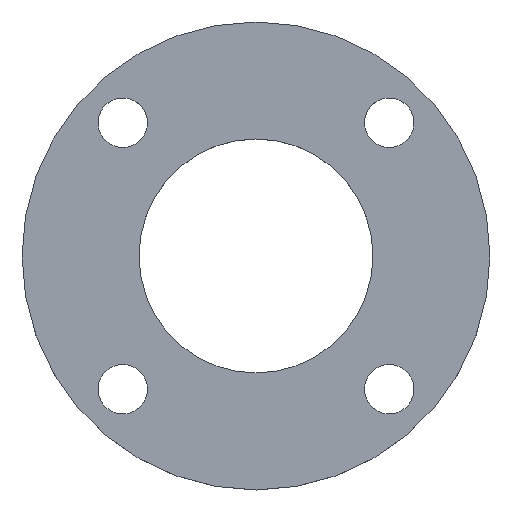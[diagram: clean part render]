
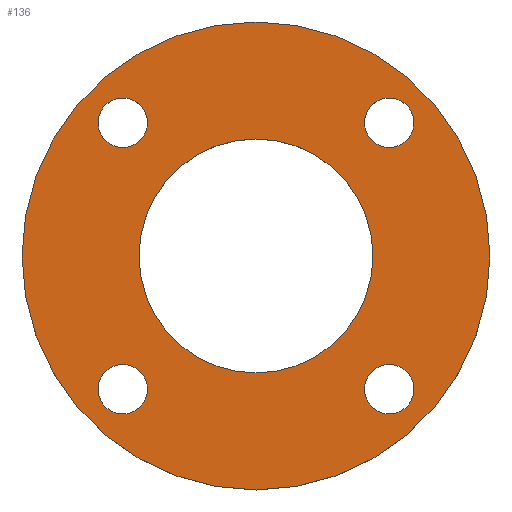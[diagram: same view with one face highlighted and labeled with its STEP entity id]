
A CAD part, top view. The second image highlights one B-rep face of the part: STEP entity #136.
In plain terms, the highlighted planar face has unit normal (0, 0, 1).
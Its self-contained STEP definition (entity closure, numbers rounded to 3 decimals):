
#14=PLANE($,#159);
#27=FACE_BOUND($,#57,.T.);
#28=FACE_BOUND($,#58,.T.);
#29=FACE_BOUND($,#59,.T.);
#30=FACE_BOUND($,#60,.T.);
#31=FACE_BOUND($,#61,.T.);
#32=FACE_BOUND($,#62,.T.);
#57=EDGE_LOOP($,(#117));
#58=EDGE_LOOP($,(#118));
#59=EDGE_LOOP($,(#119));
#60=EDGE_LOOP($,(#120));
#61=EDGE_LOOP($,(#121));
#62=EDGE_LOOP($,(#122));
#64=CIRCLE($,#142,9.5);
#66=CIRCLE($,#145,9.5);
#68=CIRCLE($,#148,9.5);
#70=CIRCLE($,#151,9.5);
#71=CIRCLE($,#153,45.);
#73=CIRCLE($,#156,90.);
#76=VERTEX_POINT($,#206);
#78=VERTEX_POINT($,#211);
#80=VERTEX_POINT($,#216);
#82=VERTEX_POINT($,#221);
#83=VERTEX_POINT($,#224);
#85=VERTEX_POINT($,#229);
#88=EDGE_CURVE($,#76,#76,#64,.T.);
#90=EDGE_CURVE($,#78,#78,#66,.T.);
#92=EDGE_CURVE($,#80,#80,#68,.T.);
#94=EDGE_CURVE($,#82,#82,#70,.T.);
#95=EDGE_CURVE($,#83,#83,#71,.T.);
#97=EDGE_CURVE($,#85,#85,#73,.T.);
#117=ORIENTED_EDGE($,*,*,#88,.T.);
#118=ORIENTED_EDGE($,*,*,#90,.T.);
#119=ORIENTED_EDGE($,*,*,#92,.T.);
#120=ORIENTED_EDGE($,*,*,#94,.T.);
#121=ORIENTED_EDGE($,*,*,#95,.T.);
#122=ORIENTED_EDGE($,*,*,#97,.T.);
#136=ADVANCED_FACE($,(#27,#28,#29,#30,#31,#32),#14,.T.);
#142=AXIS2_PLACEMENT_3D($,#207,#166,#167);
#145=AXIS2_PLACEMENT_3D($,#212,#172,#173);
#148=AXIS2_PLACEMENT_3D($,#217,#178,#179);
#151=AXIS2_PLACEMENT_3D($,#222,#184,#185);
#153=AXIS2_PLACEMENT_3D($,#225,#188,#189);
#156=AXIS2_PLACEMENT_3D($,#230,#194,#195);
#159=AXIS2_PLACEMENT_3D($,#234,#200,#201);
#166=DIRECTION('center_axis',(0.,0.,-1.));
#167=DIRECTION('ref_axis',(0.,1.,0.));
#172=DIRECTION('center_axis',(0.,0.,-1.));
#173=DIRECTION('ref_axis',(1.,0.,0.));
#178=DIRECTION('center_axis',(0.,0.,-1.));
#179=DIRECTION('ref_axis',(0.,-1.,0.));
#184=DIRECTION('center_axis',(0.,0.,-1.));
#185=DIRECTION('ref_axis',(-1.,0.,0.));
#188=DIRECTION('center_axis',(0.,0.,-1.));
#189=DIRECTION('ref_axis',(-1.,0.,0.));
#194=DIRECTION('center_axis',(0.,0.,1.));
#195=DIRECTION('ref_axis',(-1.,0.,0.));
#200=DIRECTION('center_axis',(0.,0.,1.));
#201=DIRECTION('ref_axis',(1.,0.,0.));
#206=CARTESIAN_POINT('',(51.265,41.765,14.));
#207=CARTESIAN_POINT('Origin',(51.265,51.265,14.));
#211=CARTESIAN_POINT('',(41.765,-51.265,14.));
#212=CARTESIAN_POINT('Origin',(51.265,-51.265,14.));
#216=CARTESIAN_POINT('',(-51.265,-41.765,14.));
#217=CARTESIAN_POINT('Origin',(-51.265,-51.265,14.));
#221=CARTESIAN_POINT('',(-41.765,51.265,14.));
#222=CARTESIAN_POINT('Origin',(-51.265,51.265,14.));
#224=CARTESIAN_POINT('',(45.,0.,14.));
#225=CARTESIAN_POINT('Origin',(0.,0.,14.));
#229=CARTESIAN_POINT('',(90.,0.,14.));
#230=CARTESIAN_POINT('Origin',(0.,0.,14.));
#234=CARTESIAN_POINT('Origin',(0.,0.,
14.));
